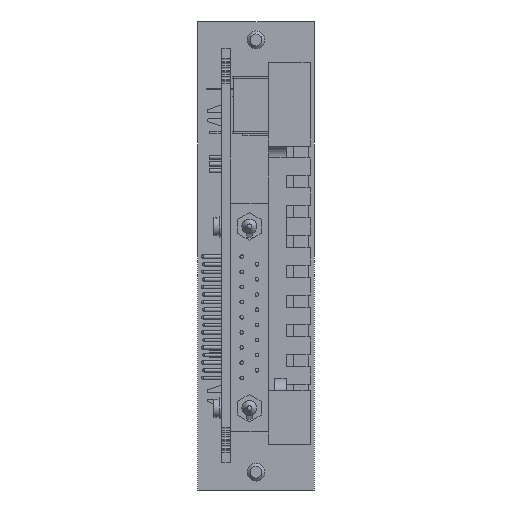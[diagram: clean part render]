
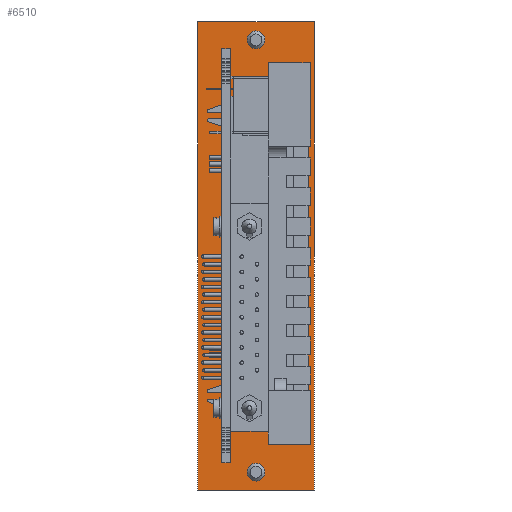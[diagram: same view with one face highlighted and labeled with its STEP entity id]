
A CAD part, front view. The second image highlights one B-rep face of the part: STEP entity #6510.
In plain terms, the highlighted planar face has unit normal (0, -1, 0).
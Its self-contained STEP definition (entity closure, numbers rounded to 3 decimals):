
#6510=ADVANCED_FACE('',(#19193,#19195,#19197,#19199,#19201,#19203),#19205,.F.);
#19193=FACE_BOUND('',#19194,.T.);
#19194=EDGE_LOOP('',(#27955,#27956,#27957,#27958));
#19195=FACE_BOUND('',#19196,.T.);
#19196=EDGE_LOOP('',(#27959,#27960,#27961,#27962,#27963,#27964,#27965,#27966));
#19197=FACE_BOUND('',#19198,.T.);
#19198=EDGE_LOOP('',(#27967));
#19199=FACE_BOUND('',#19200,.T.);
#19200=EDGE_LOOP('',(#27968));
#19201=FACE_BOUND('',#19202,.T.);
#19202=EDGE_LOOP('',(#27969));
#19203=FACE_BOUND('',#19204,.T.);
#19204=EDGE_LOOP('',(#27970));
#19205=PLANE('',#19206);
#19206=AXIS2_PLACEMENT_3D('',#19207,#19208,#19209);
#19207=CARTESIAN_POINT('',(0.,0.,0.));
#19208=DIRECTION('',(0.,1.,0.));
#19209=DIRECTION('',(-1.,0.,0.));
#27955=ORIENTED_EDGE('',*,*,#33681,.F.);
#27956=ORIENTED_EDGE('',*,*,#33682,.F.);
#27957=ORIENTED_EDGE('',*,*,#33683,.F.);
#27958=ORIENTED_EDGE('',*,*,#33684,.F.);
#27959=ORIENTED_EDGE('',*,*,#33685,.F.);
#27960=ORIENTED_EDGE('',*,*,#33686,.T.);
#27961=ORIENTED_EDGE('',*,*,#33655,.F.);
#27962=ORIENTED_EDGE('',*,*,#33652,.T.);
#27963=ORIENTED_EDGE('',*,*,#33680,.F.);
#27964=ORIENTED_EDGE('',*,*,#33687,.T.);
#27965=ORIENTED_EDGE('',*,*,#33688,.F.);
#27966=ORIENTED_EDGE('',*,*,#33689,.T.);
#27967=ORIENTED_EDGE('',*,*,#33690,.T.);
#27968=ORIENTED_EDGE('',*,*,#33691,.T.);
#27969=ORIENTED_EDGE('',*,*,#33692,.T.);
#27970=ORIENTED_EDGE('',*,*,#33693,.T.);
#33652=EDGE_CURVE('',#38592,#38590,#38593,.T.);
#33655=EDGE_CURVE('',#38592,#38597,#38598,.F.);
#33680=EDGE_CURVE('',#38639,#38590,#38641,.F.);
#33681=EDGE_CURVE('',#38642,#38643,#38644,.T.);
#33682=EDGE_CURVE('',#38645,#38642,#38646,.T.);
#33683=EDGE_CURVE('',#38647,#38645,#38648,.T.);
#33684=EDGE_CURVE('',#38643,#38647,#38649,.T.);
#33685=EDGE_CURVE('',#38650,#38651,#38652,.F.);
#33686=EDGE_CURVE('',#38650,#38597,#38653,.T.);
#33687=EDGE_CURVE('',#38639,#38654,#38655,.T.);
#33688=EDGE_CURVE('',#38656,#38654,#38657,.F.);
#33689=EDGE_CURVE('',#38656,#38651,#38658,.T.);
#33690=EDGE_CURVE('',#38659,#38659,#38660,.T.);
#33691=EDGE_CURVE('',#38661,#38661,#38662,.F.);
#33692=EDGE_CURVE('',#38663,#38663,#38664,.F.);
#33693=EDGE_CURVE('',#38665,#38665,#38666,.T.);
#38590=VERTEX_POINT('',#50520);
#38592=VERTEX_POINT('',#50524);
#38593=LINE('',#50525,#50526);
#38597=VERTEX_POINT('',#50535);
#38598=CIRCLE('',#50536,3.);
#38639=VERTEX_POINT('',#50630);
#38641=CIRCLE('',#50634,3.);
#38642=VERTEX_POINT('',#50638);
#38643=VERTEX_POINT('',#50639);
#38644=LINE('',#50640,#50641);
#38645=VERTEX_POINT('',#50643);
#38646=LINE('',#50644,#50645);
#38647=VERTEX_POINT('',#50647);
#38648=LINE('',#50648,#50649);
#38649=LINE('',#50651,#50652);
#38650=VERTEX_POINT('',#50654);
#38651=VERTEX_POINT('',#50655);
#38652=CIRCLE('',#50656,3.);
#38653=LINE('',#50660,#50661);
#38654=VERTEX_POINT('',#50663);
#38655=LINE('',#50664,#50665);
#38656=VERTEX_POINT('',#50667);
#38657=CIRCLE('',#50668,3.);
#38658=LINE('',#50672,#50673);
#38659=VERTEX_POINT('',#50675);
#38660=CIRCLE('',#50676,1.7);
#38661=VERTEX_POINT('',#50680);
#38662=CIRCLE('',#50681,1.229);
#38663=VERTEX_POINT('',#50685);
#38664=CIRCLE('',#50686,1.229);
#38665=VERTEX_POINT('',#50690);
#38666=CIRCLE('',#50691,1.7);
#50520=CARTESIAN_POINT('',(-5.721,0.,60.179));
#50524=CARTESIAN_POINT('',(-10.721,0.,59.298));
#50525=CARTESIAN_POINT('',(-10.721,0.,59.298));
#50526=VECTOR('',#50527,1.);
#50527=DIRECTION('',(0.985,0.,0.174));
#50535=CARTESIAN_POINT('',(-13.2,0.,56.343));
#50536=AXIS2_PLACEMENT_3D('',#50537,#50538,#50539);
#50537=CARTESIAN_POINT('',(-10.2,0.,56.343));
#50538=DIRECTION('',(0.,1.,0.));
#50539=DIRECTION('',(-1.,0.,0.));
#50630=CARTESIAN_POINT('',(-2.2,0.,57.225));
#50634=AXIS2_PLACEMENT_3D('',#50635,#50636,#50637);
#50635=CARTESIAN_POINT('',(-5.2,0.,57.225));
#50636=DIRECTION('',(0.,1.,0.));
#50637=DIRECTION('',(-0.174,0.,0.985));
#50638=CARTESIAN_POINT('',(0.,0.,0.));
#50639=CARTESIAN_POINT('',(-19.6,0.,0.));
#50640=CARTESIAN_POINT('',(0.,0.,0.));
#50641=VECTOR('',#50642,1.);
#50642=DIRECTION('',(-1.,0.,0.));
#50643=CARTESIAN_POINT('',(0.,0.,78.5));
#50644=CARTESIAN_POINT('',(0.,0.,78.5));
#50645=VECTOR('',#50646,1.);
#50646=DIRECTION('',(0.,0.,-1.));
#50647=CARTESIAN_POINT('',(-19.6,0.,78.5));
#50648=CARTESIAN_POINT('',(-19.6,0.,78.5));
#50649=VECTOR('',#50650,1.);
#50650=DIRECTION('',(1.,0.,0.));
#50651=CARTESIAN_POINT('',(-19.6,0.,0.));
#50652=VECTOR('',#50653,1.);
#50653=DIRECTION('',(0.,0.,1.));
#50654=CARTESIAN_POINT('',(-13.2,0.,22.257));
#50655=CARTESIAN_POINT('',(-10.721,0.,19.302));
#50656=AXIS2_PLACEMENT_3D('',#50657,#50658,#50659);
#50657=CARTESIAN_POINT('',(-10.2,0.,22.257));
#50658=DIRECTION('',(0.,1.,0.));
#50659=DIRECTION('',(-0.174,0.,-0.985));
#50660=CARTESIAN_POINT('',(-13.2,0.,22.257));
#50661=VECTOR('',#50662,1.);
#50662=DIRECTION('',(0.,0.,1.));
#50663=CARTESIAN_POINT('',(-2.2,0.,21.375));
#50664=CARTESIAN_POINT('',(-2.2,0.,57.225));
#50665=VECTOR('',#50666,1.);
#50666=DIRECTION('',(0.,0.,-1.));
#50667=CARTESIAN_POINT('',(-5.721,0.,18.421));
#50668=AXIS2_PLACEMENT_3D('',#50669,#50670,#50671);
#50669=CARTESIAN_POINT('',(-5.2,0.,21.375));
#50670=DIRECTION('',(0.,1.,0.));
#50671=DIRECTION('',(1.,0.,0.));
#50672=CARTESIAN_POINT('',(-5.721,0.,18.421));
#50673=VECTOR('',#50674,1.);
#50674=DIRECTION('',(-0.985,0.,0.174));
#50675=CARTESIAN_POINT('',(-6.,0.,62.8));
#50676=AXIS2_PLACEMENT_3D('',#50677,#50678,#50679);
#50677=CARTESIAN_POINT('',(-7.7,0.,62.8));
#50678=DIRECTION('',(0.,1.,0.));
#50679=DIRECTION('',(1.,0.,0.));
#50680=CARTESIAN_POINT('',(-8.571,0.,75.5));
#50681=AXIS2_PLACEMENT_3D('',#50682,#50683,#50684);
#50682=CARTESIAN_POINT('',(-9.8,0.,75.5));
#50683=DIRECTION('',(0.,-1.,0.));
#50684=DIRECTION('',(1.,0.,0.));
#50685=CARTESIAN_POINT('',(-8.571,0.,3.));
#50686=AXIS2_PLACEMENT_3D('',#50687,#50688,#50689);
#50687=CARTESIAN_POINT('',(-9.8,0.,3.));
#50688=DIRECTION('',(0.,-1.,0.));
#50689=DIRECTION('',(1.,0.,0.));
#50690=CARTESIAN_POINT('',(-6.,0.,15.8));
#50691=AXIS2_PLACEMENT_3D('',#50692,#50693,#50694);
#50692=CARTESIAN_POINT('',(-7.7,0.,15.8));
#50693=DIRECTION('',(0.,1.,0.));
#50694=DIRECTION('',(1.,0.,0.));
